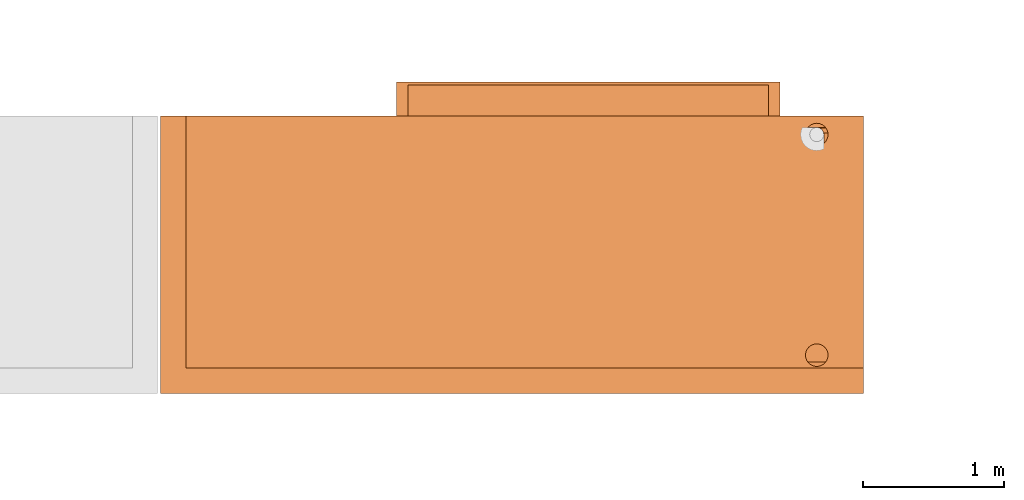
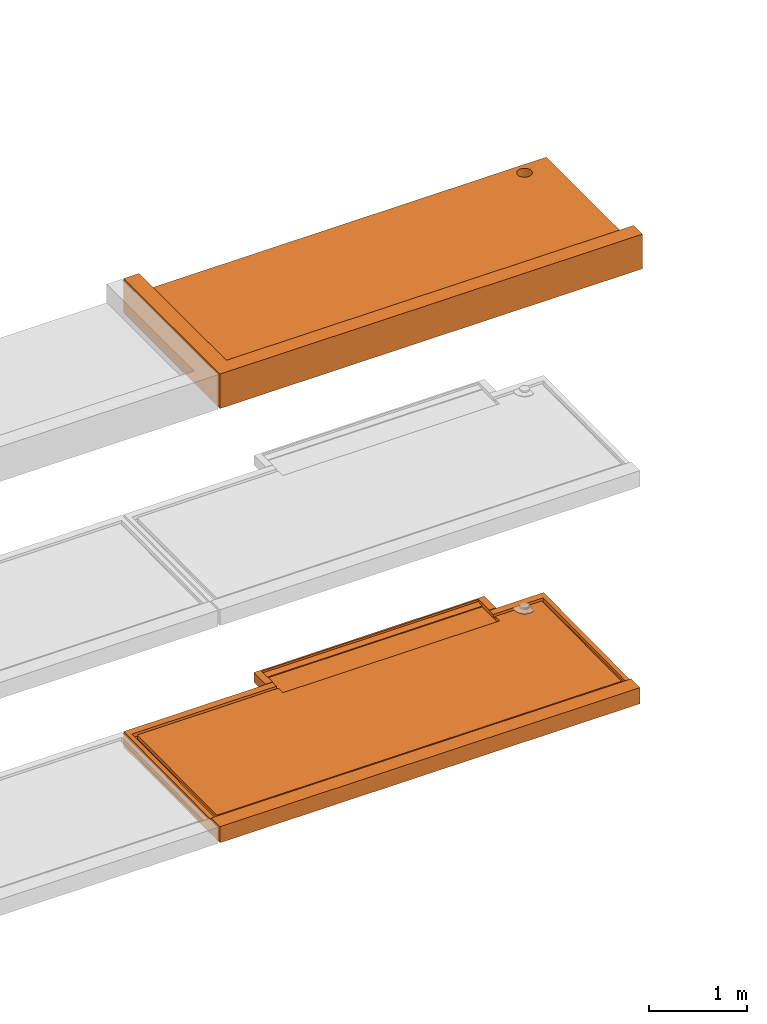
# One storey, part 8 of 31: 2 proxies, 2 elements without a shape of their own.
"""IFC2X3 building model written with IfcOpenShell, lengths in centimetres."""

from ifc_helpers import new_model, entity, si_unit, converted_unit, derived_unit, direction, frame, origin, place, context, subcontext, project, spatial, faceted_brep, source, transform, mapped, material, type_object, type_shapes, element, aggregate, save


model = new_model("IFC2X3")

# Units and contexts
model_context = context("Model", 3, precision=0.001, world=origin(), true_north=direction((6.12303176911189e-17, 1.0)))
body_context = subcontext(model_context, "Body", "Model", "MODEL_VIEW")
ifc_project = project(units=[si_unit("LENGTHUNIT", "METRE", prefix="CENTI"), si_unit("AREAUNIT", "SQUARE_METRE"), si_unit("VOLUMEUNIT", "CUBIC_METRE"), converted_unit("PLANEANGLEUNIT", "DEGREE", entity("IfcRatioMeasure", 0.0174532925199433), si_unit("PLANEANGLEUNIT", "RADIAN"), dimensions=[0, 0, 0, 0, 0, 0, 0]), si_unit("MASSUNIT", "GRAM", prefix="KILO"), derived_unit("MASSDENSITYUNIT", [(si_unit("MASSUNIT", "GRAM", prefix="KILO"), 1), (si_unit("LENGTHUNIT", "METRE"), -3)]), si_unit("TIMEUNIT", "SECOND"), si_unit("FREQUENCYUNIT", "HERTZ"), si_unit("THERMODYNAMICTEMPERATUREUNIT", "DEGREE_CELSIUS"), derived_unit("THERMALTRANSMITTANCEUNIT", [(si_unit("MASSUNIT", "GRAM", prefix="KILO"), 1), (si_unit("THERMODYNAMICTEMPERATUREUNIT", "KELVIN"), -1), (si_unit("TIMEUNIT", "SECOND"), -3)]), derived_unit("VOLUMETRICFLOWRATEUNIT", [(si_unit("LENGTHUNIT", "METRE"), 3), (si_unit("TIMEUNIT", "SECOND"), -1)]), si_unit("ELECTRICCURRENTUNIT", "AMPERE"), si_unit("ELECTRICVOLTAGEUNIT", "VOLT"), si_unit("POWERUNIT", "WATT"), si_unit("FORCEUNIT", "NEWTON"), si_unit("ILLUMINANCEUNIT", "LUX"), si_unit("LUMINOUSFLUXUNIT", "LUMEN"), si_unit("LUMINOUSINTENSITYUNIT", "CANDELA"), derived_unit("USERDEFINED", [(si_unit("MASSUNIT", "GRAM", prefix="KILO"), -1), (si_unit("LENGTHUNIT", "METRE"), -2), (si_unit("TIMEUNIT", "SECOND"), 3), (si_unit("LUMINOUSFLUXUNIT", "LUMEN"), 1)]), derived_unit("LINEARVELOCITYUNIT", [(si_unit("LENGTHUNIT", "METRE"), 1), (si_unit("TIMEUNIT", "SECOND"), -1)]), si_unit("PRESSUREUNIT", "PASCAL"), derived_unit("USERDEFINED", [(si_unit("LENGTHUNIT", "METRE"), -2), (si_unit("MASSUNIT", "GRAM", prefix="KILO"), 1), (si_unit("TIMEUNIT", "SECOND"), -2)])], contexts=[model_context])

# Site, building, storey
site_placement = place(None, origin())
site = spatial("IfcSite", under=ifc_project, at=site_placement, Name="Default", CompositionType="ELEMENT")
building_placement = place(site_placement, origin())
building = spatial("IfcBuilding", under=site, at=building_placement, Name="CAGE 03", CompositionType="ELEMENT")
storey_placement = place(building_placement, frame((0.0, 0.0, -400.0)))
storey = spatial("IfcBuildingStorey", under=building, at=storey_placement, Name="±0.00", CompositionType="ELEMENT", Elevation=-400.0)

# Assembly, proxy
assembly_1_placement = place(storey_placement, origin())
assembly_1 = element("IfcElementAssembly", 1, at=assembly_1_placement, inside=storey, Name="Assemblage Modèles génériques:BALCON TYPE 02", ObjectType="Assemblage Modèles génériques:BALCON TYPE 02", AssemblyPlace="NOTDEFINED", PredefinedType="USERDEFINED")
ifc_material = material(Name="Béton, panneaux préfa 30/37")
building_element_proxy_type_1 = type_object("IfcBuildingElementProxyType", Name="balcon préfa type 02", PredefinedType="NOTDEFINED", material=ifc_material)
shared_shape_1 = source(origin(), body_context, "Body", "Brep", [
    faceted_brep([(5.43744331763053, 18.437443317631, 15.0), (488.562556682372, 18.4374433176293, 15.0), (488.562556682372, 187.562556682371, 15.0), (466.045256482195, 187.562556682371, 15.0), (467.059340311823, 186.954798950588, 15.0), (467.902378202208, 186.125930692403, 15.0), (468.527236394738, 185.122293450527, 15.0), (468.898979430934, 184.0, 15.0), (485.0, 184.0, 15.0), (485.0, 22.0, 15.0), (9.0, 22.0, 15.0), (9.0, 184.0, 15.0), (175.0, 184.0, 15.0), (175.0, 177.0, 15.0), (430.0, 177.0, 15.0), (430.0, 184.0, 15.0), (452.543560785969, 184.0, 15.0), (452.850476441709, 185.817467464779, 15.0), (453.443813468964, 187.562556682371, 15.0), (430.0, 187.562556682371, 15.0), (430.0, 211.0, 15.0), (175.0, 211.0, 15.0), (175.0, 187.562556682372, 15.0), (5.43744331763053, 187.562556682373, 15.0), (167.0, 196.0, 20.0), (175.0, 196.0, 20.0), (175.0, 218.0, 20.0), (430.0, 218.0, 20.0), (430.0, 196.0, 20.0), (438.0, 196.0, 20.0), (438.0, 212.0, 20.0), (438.0, 220.0, 20.0), (167.0, 220.0, 20.0), (167.0, 212.0, 20.0), (494.0, 0.0, 20.0), (494.0, 18.0, 20.0), (0.0, 18.0, 20.0), (0.0, 0.0, 20.0), (167.0, 220.0, 8.0), (438.0, 220.0, 8.0), (4.0, 196.0, 0.0), (40.0, 196.0, 0.0), (4.0, 194.0, 0.0), (4.0, 4.0, 0.0), (459.669872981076, 180.499999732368, 0.0), (459.170370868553, 181.705904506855, 0.0), (459.0, 183.0, 0.0), (459.170370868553, 184.29409495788, 0.0), (459.669872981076, 185.499999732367, 0.0), (460.464466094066, 186.5355336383, 0.0), (461.499999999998, 187.330126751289, 0.0), (462.705904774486, 187.829628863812, 0.0), (490.0, 196.0, 0.0), (464.0, 188.0, 0.0), (465.294095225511, 187.829628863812, 0.0), (466.499999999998, 187.330126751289, 0.0), (467.53553390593, 186.535533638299, 0.0), (490.0, 194.0, 0.0), (468.33012701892, 185.499999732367, 0.0), (468.829629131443, 184.294094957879, 0.0), (469.0, 183.0, 0.0), (468.829629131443, 181.705904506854, 0.0), (468.33012701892, 180.499999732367, 0.0), (467.53553390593, 179.464465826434, 0.0), (490.0, 4.0, 0.0), (460.464466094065, 179.464465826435, 0.0), (461.499999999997, 178.669872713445, 0.0), (462.705904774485, 178.170370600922, 0.0), (466.499999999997, 178.669872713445, 0.0), (465.29409522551, 178.170370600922, 0.0), (464.0, 178.0, 0.0), (0.0, 196.0, 0.0), (3.0, 196.0, 0.0), (3.0, 194.0, 0.0), (3.0, 3.0, 0.0), (491.0, 3.0, 0.0), (491.0, 194.0, 0.0), (491.0, 196.0, 0.0), (494.0, 196.0, 0.0), (494.0, 194.0, 0.0), (494.0, 0.0, 0.0), (0.0, 0.0, 0.0), (0.0, 194.0, 0.0), (0.0, 18.1897047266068, 17.83166505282), (5.18970472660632, 18.1897047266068, 17.83166505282), (5.04116008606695, 187.958839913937, 19.5295380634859), (175.0, 187.958839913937, 19.5295380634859), (175.0, 194.0, 19.5899561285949), (175.0, 196.0, 19.6099582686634), (167.0, 196.0, 19.6099582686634), (40.0, 196.0, 19.6099582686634), (0.0, 196.0, 19.6099582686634), (0.0, 194.0, 19.5899561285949), (9.0, 22.0, 17.8697720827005), (485.0, 22.0, 17.8697720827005), (485.0, 184.0, 19.4899454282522), (468.898979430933, 184.0, 19.4899454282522), (468.974680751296, 183.502544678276, 19.4849703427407), (469.0, 183.0, 19.4799443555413), (469.0, 172.643842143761, 19.3763716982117), (466.460375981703, 171.766275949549, 19.3675950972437), (463.786434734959, 171.501982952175, 19.3649518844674), (461.124152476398, 171.865391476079, 19.368586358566), (458.618868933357, 172.836662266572, 19.378300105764), (456.407352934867, 174.362771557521, 19.3935628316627), (454.610335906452, 176.360405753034, 19.4135413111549), (453.325920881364, 178.720509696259, 19.4371448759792), (452.624226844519, 181.314240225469, 19.4630849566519), (452.543560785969, 184.0, 19.4899454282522), (430.0, 184.0, 19.4899454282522), (430.0, 174.975098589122, 19.3996867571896), (175.0, 174.975098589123, 19.3996867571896), (175.0, 184.0, 19.4899454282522), (9.0, 184.0, 19.4899454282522), (438.0, 196.0, 19.6099582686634), (430.0, 196.0, 19.6099582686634), (430.0, 194.0, 19.5899561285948), (430.0, 187.958839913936, 19.5295380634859), (453.624070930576, 187.958839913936, 19.5295380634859), (453.633936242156, 187.979429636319, 19.5297439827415), (453.643842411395, 188.0, 19.5299497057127), (464.0, 188.0, 19.5299497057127), (464.320779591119, 187.989699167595, 19.529846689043), (464.640237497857, 187.958839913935, 19.5295380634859), (488.958839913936, 187.958839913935, 19.5295380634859), (488.810295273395, 18.1897047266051, 17.83166505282), (494.0, 18.1897047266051, 17.83166505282), (494.0, 194.0, 19.5899561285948), (494.0, 196.0, 19.6099582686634), (430.0, 211.0, 15.9713250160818), (430.0, 218.0, 17.4999999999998), (430.0, 177.0, 16.9198129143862), (430.0, 175.0001000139, 16.8998117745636), (453.532066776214, 187.761551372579, 17.2745197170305), (453.578068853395, 187.860195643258, 18.4020288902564), (453.601069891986, 187.909517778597, 18.9657834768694), (453.612570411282, 187.934178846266, 19.2476607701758), (453.487940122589, 187.662054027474, 16.1372598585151), (465.001448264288, 187.898683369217, 18.8419456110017), (465.357287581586, 187.812251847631, 17.8540287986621), (465.705846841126, 187.700008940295, 16.571086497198), (4.0, 4.0, 1.46630765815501), (490.0, 4.0, 1.46630765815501), (491.0, 3.0, 1.0), (3.0, 3.0, 1.0), (175.0, 218.0, 17.4999999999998), (167.0, 212.0, 8.0), (438.0, 212.0, 8.0), (438.0, 196.0, 8.0), (167.0, 196.0, 8.0), (491.0, 196.0, 1.0), (490.0, 196.0, 1.46630765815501), (4.0, 196.0, 1.46630765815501), (3.0, 196.0, 1.0), (175.0, 175.000100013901, 16.8998117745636), (175.0, 177.0, 16.9198129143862), (175.0, 211.0, 15.9713250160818), (491.0, 194.0, 1.0), (490.0, 194.0, 1.46630765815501), (3.0, 194.0, 1.0), (4.0, 194.0, 1.46630765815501), (452.735578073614, 185.315771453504, 7.69999999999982), (452.511272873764, 182.490932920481, 7.69999999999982), (452.984546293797, 179.697004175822, 7.69999999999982), (454.126661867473, 177.103628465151, 7.69999999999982), (455.868272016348, 174.868271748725, 7.69999999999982), (458.103628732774, 173.126661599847, 7.69999999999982), (460.697004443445, 171.984546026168, 7.69999999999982), (463.490933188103, 171.511272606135, 7.69999999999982), (466.315771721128, 171.735577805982, 7.69999999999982), (469.0, 172.64384214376, 7.69999999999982), (469.0, 183.0, 7.69999999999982), (468.829629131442, 181.705904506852, 7.69999999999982), (468.330127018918, 180.499999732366, 7.69999999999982), (467.535533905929, 179.464465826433, 7.69999999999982), (466.499999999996, 178.669872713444, 7.69999999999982), (465.294095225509, 178.170370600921, 7.69999999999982), (464.0, 178.0, 7.69999999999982), (462.705904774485, 178.170370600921, 7.69999999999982), (461.499999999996, 178.669872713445, 7.69999999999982), (460.464466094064, 179.464465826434, 7.69999999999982), (459.669872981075, 180.499999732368, 7.69999999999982), (459.170370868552, 181.705904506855, 7.69999999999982), (459.0, 183.0, 7.69999999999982), (459.170370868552, 184.29409495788, 7.69999999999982), (459.669872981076, 185.499999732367, 7.69999999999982), (460.464466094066, 186.5355336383, 7.69999999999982), (461.499999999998, 187.330126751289, 7.69999999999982), (462.705904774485, 187.829628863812, 7.69999999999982), (464.0, 188.0, 7.69999999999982), (453.643842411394, 188.0, 7.69999999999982), (453.643842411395, 188.0, 19.1602637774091), (453.643842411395, 188.0, 18.7905778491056), (453.643842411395, 188.0, 18.0512059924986), (453.643842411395, 188.0, 16.5724622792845), (453.643842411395, 188.0, 15.0937185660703), (453.643842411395, 188.0, 13.6149748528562)], [[[0, 1, 2, 3, 4, 5, 6, 7, 8, 9, 10, 11, 12, 13, 14, 15, 16, 17, 18, 19, 20, 21, 22, 23]], [[24, 25, 26, 27, 28, 29, 30, 31, 32, 33]], [[34, 35, 36, 37]], [[38, 32, 31, 39]], [[40, 41, 42]], [[43, 42, 41]], [[41, 44, 43]], [[41, 45, 44]], [[45, 41, 46]], [[46, 41, 47]], [[47, 41, 48]], [[49, 48, 41]], [[50, 49, 41]], [[51, 50, 41]], [[41, 52, 51]], [[53, 51, 52]], [[54, 53, 52]], [[54, 52, 55]], [[56, 55, 52]], [[57, 56, 52]], [[57, 58, 56]], [[59, 58, 57]], [[57, 60, 59]], [[60, 57, 61]], [[62, 61, 57]], [[57, 63, 62]], [[63, 57, 64]], [[43, 44, 64]], [[64, 44, 65]], [[64, 65, 66]], [[64, 66, 67]], [[68, 63, 64]], [[68, 64, 69]], [[70, 69, 64]], [[70, 64, 67]], [[71, 72, 73, 74, 75, 76, 77, 78, 79, 80, 81, 82]], [[37, 81, 80, 34]], [[83, 84, 85, 86, 87, 88, 89, 90, 91, 92]], [[93, 94, 95, 96, 97, 98, 99, 100, 101, 102, 103, 104, 105, 106, 107, 108, 109, 110, 111, 112, 113]], [[114, 115, 116, 117, 118, 119, 120, 121, 122, 123, 124, 125, 126, 127, 128]], [[79, 78, 128, 127, 126, 35, 34, 80]], [[125, 1, 0, 84, 83, 36, 35, 126]], [[129, 20, 19, 117, 116, 115, 28, 27, 130]], [[109, 15, 14, 131, 132, 110]], [[86, 85, 23, 22]], [[133, 134, 135, 136, 118, 117, 19, 18, 137]], [[124, 123, 138, 139, 140, 3, 2]], [[10, 9, 94, 93]], [[141, 142, 143, 144]], [[26, 145, 130, 27]], [[146, 38, 39, 147, 148, 149]], [[91, 90, 89, 149, 148, 114, 128, 78, 77, 150, 151, 52, 41, 40, 152, 153, 72, 71]], [[154, 111, 110, 132]], [[155, 154, 132, 131]], [[13, 155, 131, 14]], [[81, 37, 36, 83, 92, 91, 71, 82]], [[145, 26, 25, 88, 87, 86, 22, 21, 156]], [[112, 111, 154, 155, 13, 12]], [[12, 11, 113, 112]], [[16, 15, 109, 108]], [[95, 8, 7, 96]], [[144, 143, 75, 74]], [[141, 43, 64, 142]], [[145, 156, 129, 130]], [[156, 21, 20, 129]], [[11, 10, 93, 113]], [[23, 85, 84, 0]], [[29, 28, 115, 114]], [[25, 24, 89, 88]], [[77, 76, 75, 143, 157, 150]], [[158, 142, 64, 57, 52, 151]], [[157, 143, 142, 158, 151, 150]], [[74, 73, 72, 153, 159, 144]], [[160, 152, 40, 42, 43, 141]], [[141, 144, 159, 153, 152, 160]], [[94, 9, 8, 95]], [[125, 124, 2, 1]], [[30, 29, 114, 148, 147, 39, 31]], [[33, 32, 38, 146, 149, 89, 24]], [[161, 162, 163, 164, 165, 166, 167, 168, 169, 170, 171, 172, 173, 174, 175, 176, 177, 178, 179, 180, 181, 182, 183, 184, 185, 186, 187, 188, 189, 190]], [[189, 121, 120, 191, 192, 193, 194, 195, 196, 190]], [[196, 18, 17]], [[161, 190, 17]], [[136, 191, 119]], [[137, 194, 133]], [[107, 162, 16]], [[17, 16, 161]], [[162, 161, 16]], [[107, 163, 162]], [[119, 118, 136]], [[191, 135, 192]], [[134, 193, 192]], [[16, 108, 107]], [[106, 163, 107]], [[135, 134, 192]], [[136, 135, 191]], [[190, 196, 17]], [[106, 164, 163]], [[165, 164, 105]], [[165, 104, 166]], [[101, 169, 168]], [[168, 167, 102]], [[167, 166, 103]], [[170, 169, 100]], [[134, 133, 193]], [[165, 105, 104]], [[166, 104, 103]], [[18, 195, 137]], [[18, 196, 195]], [[169, 101, 100]], [[120, 119, 191]], [[194, 193, 133]], [[99, 170, 100]], [[168, 102, 101]], [[102, 167, 103]], [[194, 137, 195]], [[106, 105, 164]], [[171, 170, 99, 98]], [[50, 51, 188, 187]], [[50, 187, 186, 49]], [[47, 48, 185, 184]], [[186, 185, 48, 49]], [[46, 47, 184, 183]], [[53, 189, 188, 51]], [[44, 45, 182, 181]], [[44, 181, 180, 65]], [[67, 66, 179, 178]], [[180, 179, 66, 65]], [[70, 67, 178, 177]], [[183, 182, 45, 46]], [[69, 176, 175, 68]], [[70, 177, 176, 69]], [[173, 172, 61, 62]], [[62, 63, 174, 173]], [[63, 68, 175, 174]], [[60, 61, 172, 171]], [[98, 97, 171]], [[7, 171, 97]], [[96, 7, 97]], [[59, 171, 7]], [[59, 60, 171]], [[6, 58, 59]], [[58, 6, 5]], [[5, 56, 58]], [[189, 53, 54]], [[55, 56, 4]], [[55, 3, 54]], [[5, 4, 56]], [[54, 138, 189]], [[55, 4, 3]], [[3, 140, 54]], [[138, 54, 139]], [[138, 123, 189]], [[139, 54, 140]], [[123, 122, 189]], [[189, 122, 121]], [[59, 7, 6]]]),
])
type_shapes(building_element_proxy_type_1, [shared_shape_1])
proxy_1_placement = place(assembly_1_placement, frame((5375.36582014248, 4474.6606660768, 720.0)))
proxy_1 = element("IfcBuildingElementProxy", 2, at=proxy_1_placement, type_object=building_element_proxy_type_1, material=ifc_material, Name="BY_STR_Balcon_préfa_02:balcon préfa type 02", ObjectType="balcon préfa type 02", context=body_context, shape_type="MappedRepresentation", body=[
    mapped(shared_shape_1, transform((0.0, 0.0, 0.0), scale=1.0)),
])
aggregate(assembly_1, [proxy_1])

assembly_2_placement = place(storey_placement, origin())
assembly_2 = element("IfcElementAssembly", 3, at=assembly_2_placement, inside=storey, Name="Assemblage Modèles génériques:BALCON TYPE 10", ObjectType="Assemblage Modèles génériques:BALCON TYPE 10", AssemblyPlace="NOTDEFINED", PredefinedType="USERDEFINED")
building_element_proxy_type_2 = type_object("IfcBuildingElementProxyType", Name="balcon préfa type 10", PredefinedType="NOTDEFINED", material=ifc_material)
shared_shape_2 = source(origin(), body_context, "Body", "Brep", [
    faceted_brep([(0.0, 194.0, 0.0), (0.0, 196.0, 0.0), (3.0, 196.0, 0.0), (3.0, 194.0, 0.0), (3.0, 3.0, 0.0), (497.0, 3.0, 0.0), (497.0, 0.0, 0.0), (0.0, 0.0, 0.0), (497.0, 194.0, 0.0), (470.928203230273, 187.0, 0.0), (497.0, 196.0, 0.0), (471.72740661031, 185.070552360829, 0.0), (472.0, 183.0, 0.0), (471.72740661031, 180.929447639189, 0.0), (470.928203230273, 179.0, 0.0), (469.65685424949, 177.343145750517, 0.0), (469.656854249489, 32.6568542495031, 0.0), (470.928203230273, 31.0, 0.0), (497.0, 4.0, 0.0), (471.72740661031, 29.0705523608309, 0.0), (472.0, 27.0, 0.0), (471.72740661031, 24.9294476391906, 0.0), (470.928203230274, 23.0, 0.0), (469.65685424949, 21.3431457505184, 0.0), (468.0, 20.0717967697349, 0.0), (466.070552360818, 19.2725933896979, 0.0), (464.0, 19.0, 0.0), (461.929447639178, 19.2725933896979, 0.0), (4.0, 4.0, 0.0), (460.0, 20.0717967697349, 0.0), (458.343145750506, 21.3431457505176, 0.0), (457.071796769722, 23.0, 0.0), (456.272593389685, 24.9294476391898, 0.0), (456.0, 27.0, 0.0), (456.272593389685, 29.0705523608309, 0.0), (4.0, 194.0, 0.0), (456.272593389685, 180.929447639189, 0.0), (456.0, 183.0, 0.0), (4.0, 196.0, 0.0), (456.272593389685, 185.07055236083, 0.0), (457.071796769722, 187.0, 0.0), (458.343145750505, 188.656854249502, 0.0), (460.0, 189.928203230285, 0.0), (461.929447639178, 190.727406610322, 0.0), (464.0, 191.0, 0.0), (457.071796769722, 179.0, 0.0), (457.071796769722, 31.0, 0.0), (458.343145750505, 32.6568542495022, 0.0), (458.343145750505, 177.343145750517, 0.0), (460.0, 33.9282032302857, 0.0), (460.0, 176.071796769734, 0.0), (461.929447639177, 34.7274066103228, 0.0), (461.929447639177, 175.272593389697, 0.0), (464.0, 35.0, 0.0), (464.0, 175.0, 0.0), (466.070552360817, 34.7274066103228, 0.0), (466.070552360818, 175.272593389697, 0.0), (468.0, 33.9282032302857, 0.0), (468.0, 176.071796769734, 0.0), (469.65685424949, 188.656854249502, 0.0), (468.0, 189.928203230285, 0.0), (466.070552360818, 190.727406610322, 0.0), (3.0, 3.0, 1.0), (497.0, 3.0, 1.0), (18.0, 18.0, 43.0), (18.0, 18.0, 20.0), (18.0, 196.0, 20.0), (18.0, 196.0, 43.0), (0.0, 196.0, 20.0), (0.0, 196.0, 43.0), (497.0, 196.0, 20.0), (4.0, 196.0, 1.46630765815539), (3.0, 196.0, 1.0), (497.0, 18.0, 43.0), (497.0, 18.0, 20.0), (497.0, 0.0, 43.0), (0.0, 0.0, 43.0), (497.0, 4.0, 1.46630765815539), (497.0, 194.0, 20.0), (471.72740661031, 24.9294476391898, 20.0), (470.928203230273, 23.0, 20.0), (472.0, 27.0, 20.0), (469.65685424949, 21.3431457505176, 20.0), (468.0, 20.0717967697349, 20.0), (466.070552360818, 19.2725933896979, 20.0), (464.0, 19.0, 20.0), (461.929447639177, 19.2725933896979, 20.0), (460.0, 20.0717967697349, 20.0), (458.343145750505, 21.3431457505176, 20.0), (457.071796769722, 23.0, 20.0), (456.272593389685, 24.9294476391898, 20.0), (456.0, 27.0, 20.0), (456.272593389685, 29.0705523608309, 20.0), (456.272593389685, 180.929447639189, 20.0), (457.071796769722, 31.0, 20.0), (457.071796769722, 179.0, 20.0), (458.343145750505, 177.343145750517, 20.0), (458.343145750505, 32.6568542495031, 20.0), (460.0, 176.071796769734, 20.0), (460.0, 33.9282032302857, 20.0), (461.929447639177, 175.272593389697, 20.0), (461.929447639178, 34.7274066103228, 20.0), (464.0, 175.0, 20.0), (464.0, 35.0, 20.0), (466.070552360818, 175.272593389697, 20.0), (466.070552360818, 34.7274066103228, 20.0), (468.0, 176.071796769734, 20.0), (468.0, 33.9282032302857, 20.0), (469.65685424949, 177.343145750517, 20.0), (469.65685424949, 32.6568542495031, 20.0), (470.928203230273, 31.0, 20.0), (471.72740661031, 29.07055236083, 20.0), (470.928203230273, 179.0, 20.0), (471.72740661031, 180.929447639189, 20.0), (472.0, 183.0, 20.0), (471.72740661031, 185.070552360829, 20.0), (470.928203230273, 187.0, 20.0), (469.65685424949, 188.656854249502, 20.0), (468.0, 189.928203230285, 20.0), (466.070552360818, 190.727406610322, 20.0), (464.0, 191.0, 20.0), (461.929447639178, 190.727406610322, 20.0), (460.0, 189.928203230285, 20.0), (458.343145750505, 188.656854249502, 20.0), (456.0, 183.0, 20.0), (456.272593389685, 185.07055236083, 20.0), (457.071796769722, 187.0, 20.0), (4.0, 4.0, 1.46630765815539), (3.0, 194.0, 1.0), (4.0, 194.0, 1.46630765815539)], [[[0, 1, 2, 3, 4, 5, 6, 7]], [[0, 3, 4]], [[0, 4, 7]], [[2, 3, 0]], [[0, 1, 2]], [[6, 7, 4]], [[4, 5, 6]], [[8, 9, 10]], [[11, 9, 8]], [[8, 12, 11]], [[8, 13, 12]], [[14, 13, 8]], [[8, 15, 14]], [[16, 15, 8]], [[8, 17, 16]], [[17, 8, 18]], [[18, 19, 17]], [[18, 20, 19]], [[20, 18, 21]], [[22, 21, 18]], [[18, 23, 22]], [[24, 23, 18]], [[18, 25, 24]], [[18, 26, 25]], [[27, 26, 18]], [[18, 28, 27]], [[28, 29, 27]], [[28, 30, 29]], [[30, 28, 31]], [[28, 32, 31]], [[32, 28, 33]], [[34, 33, 28]], [[34, 28, 35]], [[35, 36, 34]], [[35, 37, 36]], [[35, 38, 37]], [[37, 38, 39]], [[38, 40, 39]], [[41, 40, 38]], [[38, 42, 41]], [[38, 43, 42]], [[38, 10, 43]], [[44, 43, 10]], [[36, 45, 34]], [[34, 45, 46]], [[47, 46, 45]], [[48, 47, 45]], [[49, 47, 48]], [[48, 50, 49]], [[51, 49, 50]], [[50, 52, 51]], [[53, 51, 52]], [[54, 53, 52]], [[55, 53, 54]], [[54, 56, 55]], [[55, 56, 57]], [[56, 58, 57]], [[58, 15, 16]], [[58, 16, 57]], [[59, 10, 9]], [[10, 59, 60]], [[10, 60, 61]], [[10, 61, 44]], [[4, 62, 63, 5]], [[64, 65, 66, 67]], [[2, 1, 68, 69, 67, 66, 70, 10, 38, 71, 72]], [[73, 74, 65, 64]], [[75, 76, 7, 6]], [[5, 63, 77, 18, 8, 10, 70, 78, 74, 73, 75, 6]], [[79, 80, 74]], [[81, 79, 74]], [[82, 74, 80]], [[74, 82, 83]], [[74, 83, 84]], [[74, 84, 85]], [[85, 65, 74]], [[65, 85, 86]], [[65, 86, 87]], [[65, 87, 88]], [[88, 89, 65]], [[90, 65, 89]], [[91, 65, 90]], [[65, 91, 92]], [[92, 93, 65]], [[92, 94, 93]], [[93, 94, 95]], [[95, 94, 96]], [[94, 97, 96]], [[96, 97, 98]], [[99, 98, 97]], [[98, 99, 100]], [[99, 101, 100]], [[100, 101, 102]], [[101, 103, 102]], [[103, 104, 102]], [[104, 103, 105]], [[105, 106, 104]], [[106, 105, 107]], [[108, 106, 107]], [[107, 109, 108]], [[109, 110, 74]], [[108, 109, 74]], [[74, 110, 111]], [[74, 111, 81]], [[74, 78, 108]], [[78, 112, 108]], [[112, 78, 113]], [[78, 114, 113]], [[78, 115, 114]], [[115, 78, 116]], [[116, 78, 70]], [[117, 116, 70]], [[70, 118, 117]], [[70, 119, 118]], [[120, 119, 70]], [[120, 70, 121]], [[70, 66, 121]], [[66, 122, 121]], [[66, 123, 122]], [[93, 124, 66]], [[125, 66, 124]], [[66, 125, 126]], [[123, 66, 126]], [[65, 93, 66]], [[127, 28, 18, 77]], [[62, 127, 77, 63]], [[2, 72, 128, 62, 4, 3]], [[71, 38, 35, 28, 127, 129]], [[72, 71, 129, 127, 62, 128]], [[64, 67, 69, 76, 75, 73]], [[76, 69, 68, 1, 0, 7]], [[9, 11, 115, 116]], [[9, 116, 117, 59]], [[61, 60, 118, 119]], [[117, 118, 60, 59]], [[44, 61, 119, 120]], [[12, 114, 115, 11]], [[42, 43, 121, 122]], [[42, 122, 123, 41]], [[39, 40, 126, 125]], [[123, 126, 40, 41]], [[37, 39, 125, 124]], [[120, 121, 43, 44]], [[93, 36, 37, 124]], [[52, 50, 98, 100]], [[48, 96, 98, 50]], [[52, 100, 102, 54]], [[45, 36, 93, 95]], [[95, 96, 48, 45]], [[58, 56, 104, 106]], [[58, 106, 108, 15]], [[13, 14, 112, 113]], [[108, 112, 14, 15]], [[12, 13, 113, 114]], [[102, 104, 56, 54]], [[17, 19, 111, 110]], [[17, 110, 109, 16]], [[55, 57, 107, 105]], [[109, 107, 57, 16]], [[53, 55, 105, 103]], [[20, 81, 111, 19]], [[49, 51, 101, 99]], [[49, 99, 97, 47]], [[34, 46, 94, 92]], [[97, 94, 46, 47]], [[33, 34, 92, 91]], [[103, 101, 51, 53]], [[90, 32, 33, 91]], [[27, 29, 87, 86]], [[30, 88, 87, 29]], [[27, 86, 85, 26]], [[31, 32, 90, 89]], [[89, 88, 30, 31]], [[24, 25, 84, 83]], [[24, 83, 82, 23]], [[21, 22, 80, 79]], [[82, 80, 22, 23]], [[20, 21, 79, 81]], [[85, 84, 25, 26]]]),
])
type_shapes(building_element_proxy_type_2, [shared_shape_2])
proxy_2_placement = place(assembly_2_placement, frame((5375.36582014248, 4474.66066607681, 1260.0)))
proxy_2 = element("IfcBuildingElementProxy", 4, at=proxy_2_placement, type_object=building_element_proxy_type_2, material=ifc_material, Name="BY_STR_Balcon_préfa_09-10:balcon préfa type 10", ObjectType="balcon préfa type 10", context=body_context, shape_type="MappedRepresentation", body=[
    mapped(shared_shape_2, transform((0.0, 0.0, 0.0), scale=1.0)),
])
aggregate(assembly_2, [proxy_2])

save(model, "model.ifc")
